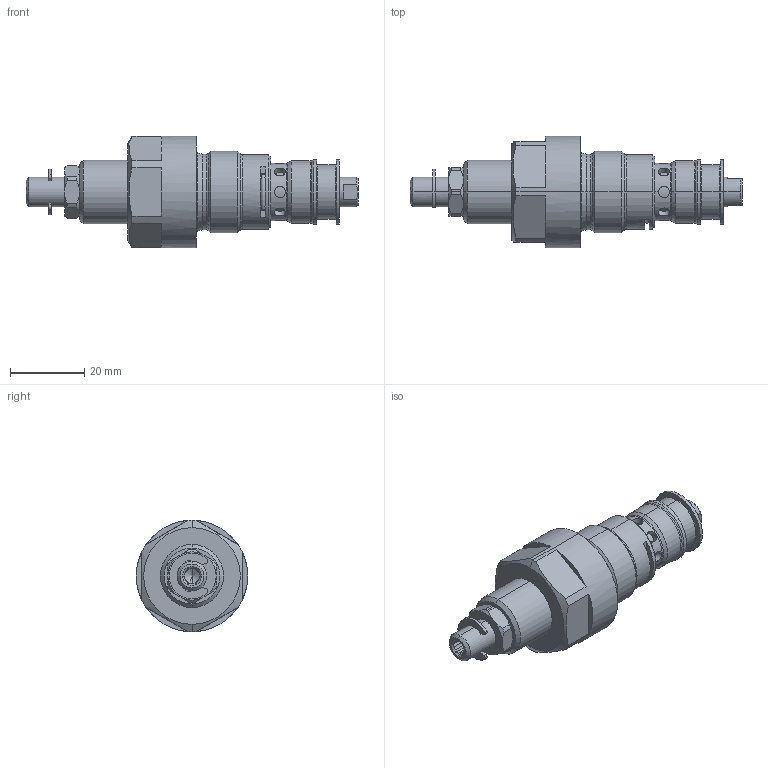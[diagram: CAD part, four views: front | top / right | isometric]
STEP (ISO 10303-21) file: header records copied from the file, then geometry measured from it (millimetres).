
FILE_DESCRIPTION (( 'STEP AP214' ), '1' );
FILE_NAME ('BASPM22.STEP', '2021-08-18T08:46:54', ( '' ), ( '' ), 'SwSTEP 2.0', 'SolidWorks 2020', '' );
FILE_SCHEMA (( 'AUTOMOTIVE_DESIGN' ));
Length unit declared in the file: millimetre
Products named in the file (1): BASPM22
Bounding box: 89.37 x 30 x 30 mm (x, y, z)
Volume: 26640.8 mm3; surface area: 7386.2 mm2
Topology: 1 solids, 1 shells, 196 faces, 465 edges, 282 vertices
Faces by surface type: cylinder 72, plane 62, cone 41, torus 21
Entity records: 8794 total; most frequent: CARTESIAN_POINT 2116, DIRECTION 968, ORIENTED_EDGE 926, EDGE_CURVE 463, AXIS2_PLACEMENT_3D 398, VERTEX_POINT 282, EDGE_LOOP 213, CIRCLE 201
